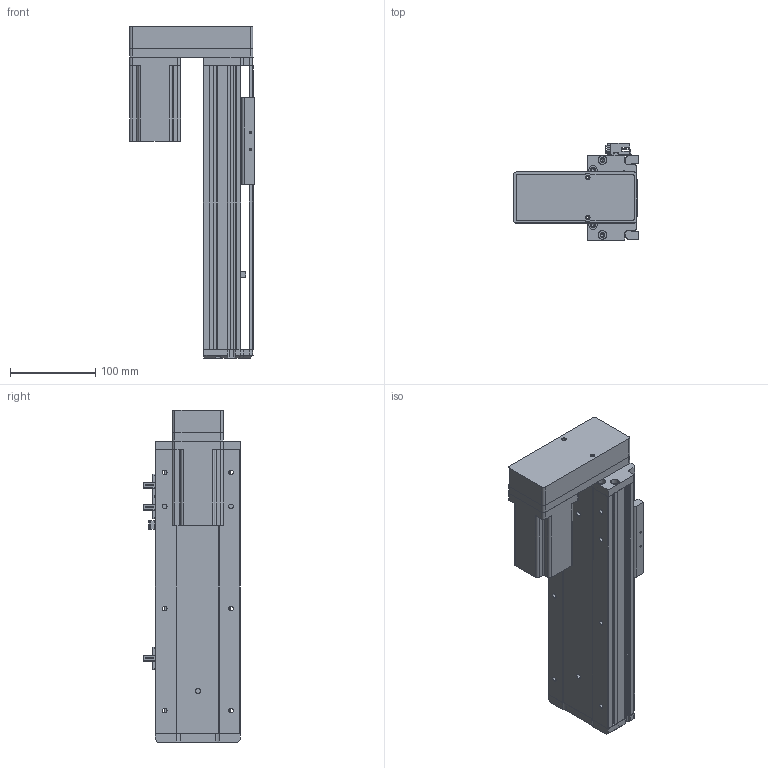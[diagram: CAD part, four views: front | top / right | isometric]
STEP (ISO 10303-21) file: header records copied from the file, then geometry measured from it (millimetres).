
FILE_DESCRIPTION (( 'STEP AP214' ), '1' );
FILE_NAME ('KSD100S-S150-MD-CM.STEP', '2019-08-30T02:51:36', ( '微软用户' ), ( '微软中国' ), 'SwSTEP 2.0', 'SolidWorks 2014', '' );
FILE_SCHEMA (( 'AUTOMOTIVE_DESIGN' ));
Length unit declared in the file: millimetre
Products named in the file (11): 悵誘欶奻狟殏; 100宽马达安装板连板上下折丝杆同步带; 侂狟400侜督萇儂; 覜茼え100遵圉猾敕; U倰嫖萇EEㄜSX672; 100宽防尘板丝杆150行程; 100遵鎮湛假蚾啣; 100宽滚珠螺姆安装板半封闭; 100遵傷啣; 100宽底板半封闭丝杆150行程; KSD100S-S150-MD-CM
Assembly tree (12 placements, depth 2):
  KSD100S-S150-MD-CM
    100宽底板半封闭丝杆150行程
    100遵傷啣
    100宽滚珠螺姆安装板半封闭
    100遵鎮湛假蚾啣
    100宽防尘板丝杆150行程
    U倰嫖萇EEㄜSX672  x3
    覜茼え100遵圉猾敕
    侂狟400侜督萇儂
    100宽马达安装板连板上下折丝杆同步带
    悵誘欶奻狟殏
Bounding box: 147 x 113.7 x 390.5 mm (x, y, z)
Volume: 1245408.6 mm3; surface area: 385141.6 mm2
Topology: 13 solids, 13 shells, 1107 faces, 3102 edges, 1991 vertices
Faces by surface type: cylinder 524, plane 492, cone 91
Entity records: 38395 total; most frequent: CARTESIAN_POINT 6647, DIRECTION 5145, ORIENTED_EDGE 4928, EDGE_CURVE 2464, AXIS2_PLACEMENT_3D 1853, VERTEX_POINT 1615, VECTOR 1439, LINE 1439
